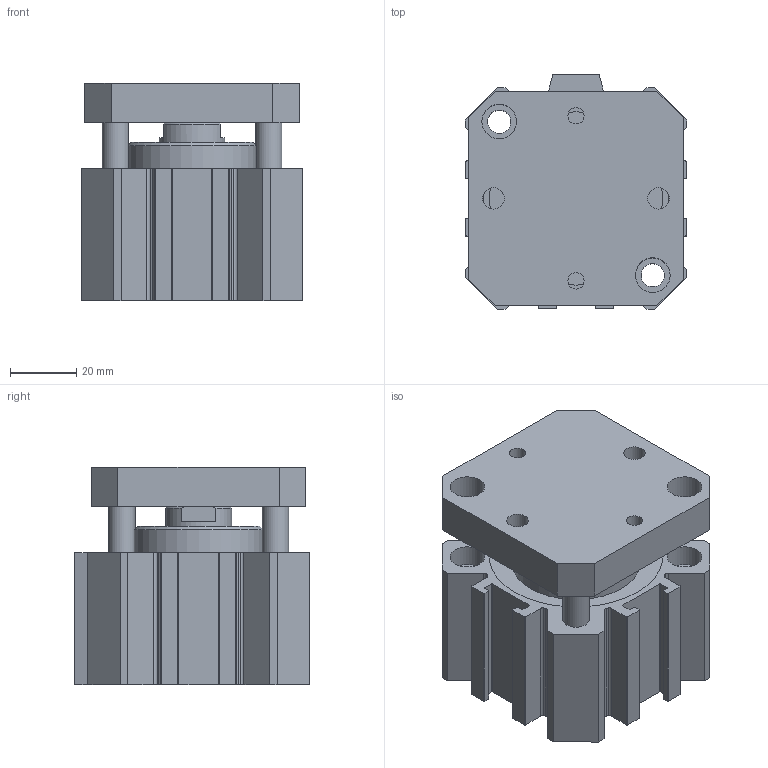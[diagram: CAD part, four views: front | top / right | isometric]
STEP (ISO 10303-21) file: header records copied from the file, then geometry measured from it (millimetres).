
FILE_DESCRIPTION(/* description */ (''),/* implementation_level */ '2;1');
FILE_NAME(/* name */ 'I:\Area Tecnica\Disegni\VARIE-3D\Componenti\1500\Ø50\15##_50_####_#\1501_50_0005_AR.stp',/* time_stamp */ '2016-08-24T12:19:06+02:00',/* author */ ('Maniean1'),/* organization */ ('Pneumax S.p.A.'),/* preprocessor_version */ 'ST-DEVELOPER v15.2',/* originating_system */ 'Autodesk Inventor 2014',/* authorisation */ '');
FILE_SCHEMA (('AUTOMOTIVE_DESIGN { 1 0 10303 214 3 1 1 }'));
Length unit declared in the file: millimetre
Products named in the file (3): C_1501_50_0005_AR; S_1501_50_0005_AR; 1501_50_0005_AR
Bounding box: 67 x 71 x 66 mm (x, y, z)
Volume: 186734.2 mm3; surface area: 58325.2 mm2
Topology: 2 solids, 2 shells, 185 faces, 481 edges, 322 vertices
Faces by surface type: plane 94, cylinder 86, cone 5
Full cylindrical faces by diameter (mm): 4.917 x2, 6.5 x2, 7 x4, 8 x4, 8.566 x2, 10.5 x10, 20 x2, 39 x2, 50 x2, 52.5 x2
Entity records: 5732 total; most frequent: DIRECTION 994, CARTESIAN_POINT 950, ORIENTED_EDGE 876, EDGE_CURVE 438, AXIS2_PLACEMENT_3D 370, VERTEX_POINT 314, EDGE_LOOP 262, LINE 254
